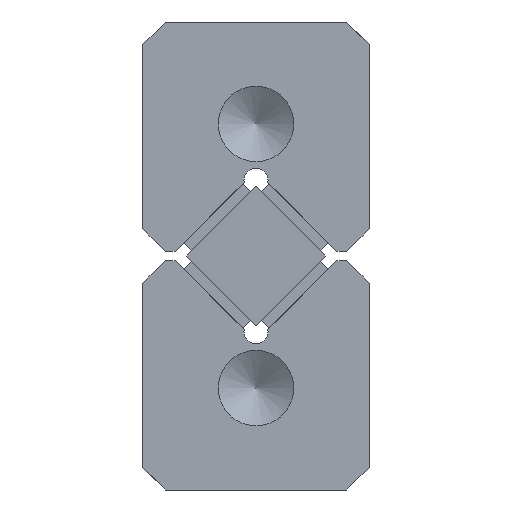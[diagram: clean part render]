
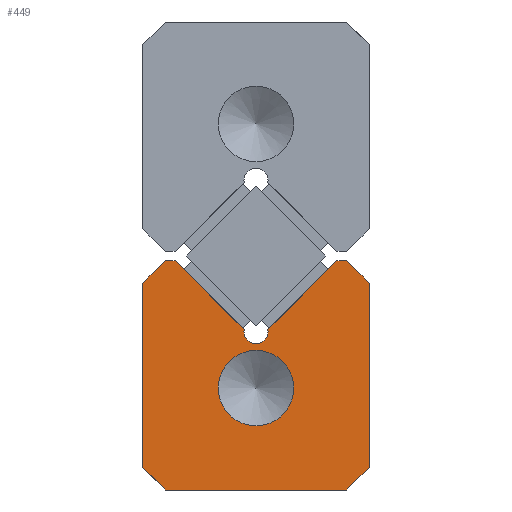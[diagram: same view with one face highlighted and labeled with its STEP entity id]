
A CAD part, left-side view. The second image highlights one B-rep face of the part: STEP entity #449.
In plain terms, the highlighted planar face has unit normal (-1, 0, 0).
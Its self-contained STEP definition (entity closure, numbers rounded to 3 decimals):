
#184=CARTESIAN_POINT('',(0.0,2.5,0.75));
#185=VERTEX_POINT('',#184);
#186=CARTESIAN_POINT('',(0.0,0.0,0.75));
#187=DIRECTION('',(1.0,0.0,0.0));
#188=DIRECTION('',(0.0,1.0,0.0));
#189=AXIS2_PLACEMENT_3D('',#186,#187,#188);
#190=CIRCLE('',#189,2.5);
#191=EDGE_CURVE('',#185,#185,#190,.T.);
#214=CARTESIAN_POINT('',(0.0,-6.,9.2));
#215=VERTEX_POINT('',#214);
#222=CARTESIAN_POINT('',(0.0,-7.5,7.7));
#223=VERTEX_POINT('',#222);
#224=CARTESIAN_POINT('',(0.0,-6.,9.2));
#225=DIRECTION('',(0.0,-0.707,-0.707));
#226=VECTOR('',#225,2.121);
#227=LINE('',#224,#226);
#228=EDGE_CURVE('',#215,#223,#227,.T.);
#245=CARTESIAN_POINT('',(0.0,-7.5,-4.5));
#246=VERTEX_POINT('',#245);
#247=CARTESIAN_POINT('',(0.0,-7.5,7.7));
#248=DIRECTION('',(0.0,0.0,-1.0));
#249=VECTOR('',#248,12.2);
#250=LINE('',#247,#249);
#251=EDGE_CURVE('',#223,#246,#250,.T.);
#358=CARTESIAN_POINT('',(0.0,0.,1.512));
#359=DIRECTION('',(1.0,0.0,0.0));
#360=DIRECTION('',(0.0,0.0,-1.0));
#361=AXIS2_PLACEMENT_3D('',#358,#359,#360);
#362=PLANE('',#361);
#363=ORIENTED_EDGE('',*,*,#228,.F.);
#364=CARTESIAN_POINT('',(0.0,-5.357,9.2));
#365=VERTEX_POINT('',#364);
#366=CARTESIAN_POINT('',(0.0,-5.357,9.2));
#367=DIRECTION('',(0.0,-1.0,0.0));
#368=VECTOR('',#367,0.643);
#369=LINE('',#366,#368);
#370=EDGE_CURVE('',#365,#215,#369,.T.);
#371=ORIENTED_EDGE('',*,*,#370,.F.);
#372=CARTESIAN_POINT('',(0.0,-0.789,4.632));
#373=VERTEX_POINT('',#372);
#374=CARTESIAN_POINT('',(0.0,-0.789,4.632));
#375=DIRECTION('',(0.0,-0.707,0.707));
#376=VECTOR('',#375,6.46);
#377=LINE('',#374,#376);
#378=EDGE_CURVE('',#373,#365,#377,.T.);
#379=ORIENTED_EDGE('',*,*,#378,.F.);
#380=CARTESIAN_POINT('',(0.0,0.789,4.632));
#381=VERTEX_POINT('',#380);
#382=CARTESIAN_POINT('',(0.0,0.0,4.5));
#383=DIRECTION('',(-1.,0.0,0.0));
#384=DIRECTION('',(0.0,0.986,-0.165));
#385=AXIS2_PLACEMENT_3D('',#382,#383,#384);
#386=CIRCLE('',#385,0.8);
#387=EDGE_CURVE('',#381,#373,#386,.T.);
#388=ORIENTED_EDGE('',*,*,#387,.F.);
#389=CARTESIAN_POINT('',(0.0,5.357,9.2));
#390=VERTEX_POINT('',#389);
#391=CARTESIAN_POINT('',(0.0,5.357,9.2));
#392=DIRECTION('',(0.0,-0.707,-0.707));
#393=VECTOR('',#392,6.46);
#394=LINE('',#391,#393);
#395=EDGE_CURVE('',#390,#381,#394,.T.);
#396=ORIENTED_EDGE('',*,*,#395,.F.);
#397=CARTESIAN_POINT('',(0.0,6.,9.2));
#398=VERTEX_POINT('',#397);
#399=CARTESIAN_POINT('',(0.0,6.,9.2));
#400=DIRECTION('',(0.0,-1.0,0.0));
#401=VECTOR('',#400,0.643);
#402=LINE('',#399,#401);
#403=EDGE_CURVE('',#398,#390,#402,.T.);
#404=ORIENTED_EDGE('',*,*,#403,.F.);
#405=CARTESIAN_POINT('',(0.0,7.5,7.7));
#406=VERTEX_POINT('',#405);
#407=CARTESIAN_POINT('',(0.0,7.5,7.7));
#408=DIRECTION('',(0.0,-0.707,0.707));
#409=VECTOR('',#408,2.121);
#410=LINE('',#407,#409);
#411=EDGE_CURVE('',#406,#398,#410,.T.);
#412=ORIENTED_EDGE('',*,*,#411,.F.);
#413=CARTESIAN_POINT('',(0.0,7.5,-4.5));
#414=VERTEX_POINT('',#413);
#415=CARTESIAN_POINT('',(0.0,7.5,-4.5));
#416=DIRECTION('',(0.0,0.0,1.0));
#417=VECTOR('',#416,12.2);
#418=LINE('',#415,#417);
#419=EDGE_CURVE('',#414,#406,#418,.T.);
#420=ORIENTED_EDGE('',*,*,#419,.F.);
#421=CARTESIAN_POINT('',(0.0,6.,-6.));
#422=VERTEX_POINT('',#421);
#423=CARTESIAN_POINT('',(0.0,6.,-6.));
#424=DIRECTION('',(0.0,0.707,0.707));
#425=VECTOR('',#424,2.121);
#426=LINE('',#423,#425);
#427=EDGE_CURVE('',#422,#414,#426,.T.);
#428=ORIENTED_EDGE('',*,*,#427,.F.);
#429=CARTESIAN_POINT('',(0.0,-6.,-6.));
#430=VERTEX_POINT('',#429);
#431=CARTESIAN_POINT('',(0.0,-6.,-6.));
#432=DIRECTION('',(0.0,1.0,0.0));
#433=VECTOR('',#432,12.);
#434=LINE('',#431,#433);
#435=EDGE_CURVE('',#430,#422,#434,.T.);
#436=ORIENTED_EDGE('',*,*,#435,.F.);
#437=CARTESIAN_POINT('',(0.0,-7.5,-4.5));
#438=DIRECTION('',(0.0,0.707,-0.707));
#439=VECTOR('',#438,2.121);
#440=LINE('',#437,#439);
#441=EDGE_CURVE('',#246,#430,#440,.T.);
#442=ORIENTED_EDGE('',*,*,#441,.F.);
#443=ORIENTED_EDGE('',*,*,#251,.F.);
#444=EDGE_LOOP('',(#363,#371,#379,#388,#396,#404,#412,#420,#428,#436,#442,#443));
#445=FACE_OUTER_BOUND('',#444,.T.);
#446=ORIENTED_EDGE('',*,*,#191,.T.);
#447=EDGE_LOOP('',(#446));
#448=FACE_BOUND('',#447,.T.);
#449=ADVANCED_FACE('',(#445,#448),#362,.F.);
